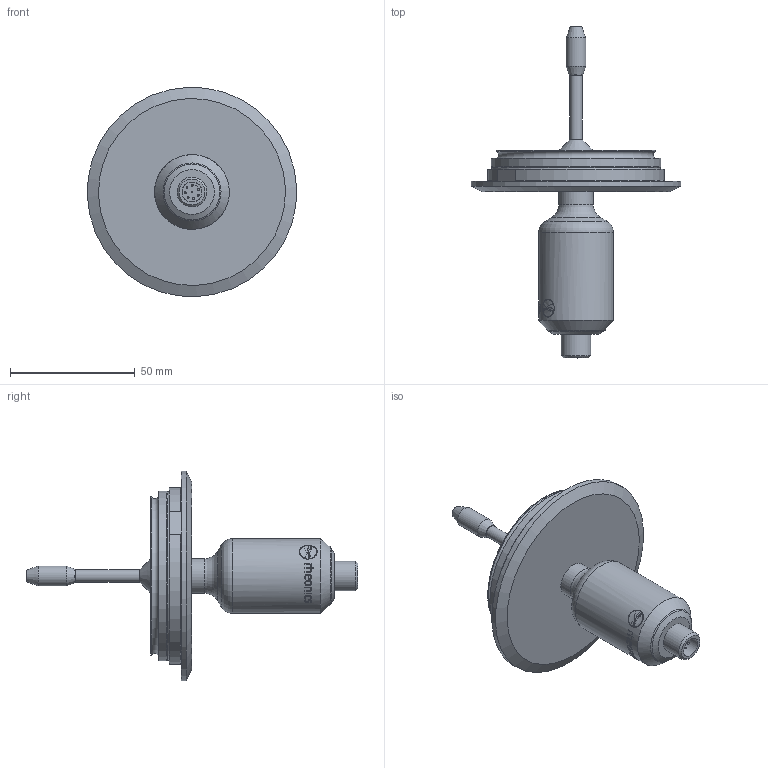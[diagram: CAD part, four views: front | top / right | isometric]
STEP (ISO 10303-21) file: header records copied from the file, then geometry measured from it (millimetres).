
FILE_DESCRIPTION(/* description */ ('Unknown'),/* implementation_level */ '2;1');
FILE_NAME(/* name */ 'SRV-X4-VN',/* time_stamp */ '2024-10-25T11:07:51-05:00',/* author */ ('Unknown'),/* organization */ ('Unknown'),/* preprocessor_version */ 'ST-DEVELOPER v16.7',/* originating_system */ 'Solid Edge',/* authorisation */ 'Unknown');
FILE_SCHEMA (('AUTOMOTIVE_DESIGN {1 0 10303 214 3 1 1}'));
Length unit declared in the file: millimetre
Products named in the file (1): SRV-X4-VN
Bounding box: 83.91 x 133.13 x 83.91 mm (x, y, z)
Volume: 101747.9 mm3; surface area: 21492.6 mm2
Topology: 1 solids, 1 shells, 183 faces, 467 edges, 301 vertices
Faces by surface type: bspline 66, plane 50, cylinder 39, cone 12, sphere 8, torus 8
Full cylindrical faces by diameter (mm): 0.8 x8, 5.019 x1, 8 x2, 12 x1, 13.9 x2, 30 x1, 64 x1, 68 x1, 84 x1
Entity records: 10106 total; most frequent: CARTESIAN_POINT 5150, ORIENTED_EDGE 790, DIRECTION 569, EDGE_CURVE 395, VERTEX_POINT 281, EDGE_LOOP 250, FACE_BOUND 250, AXIS2_PLACEMENT_3D 218
